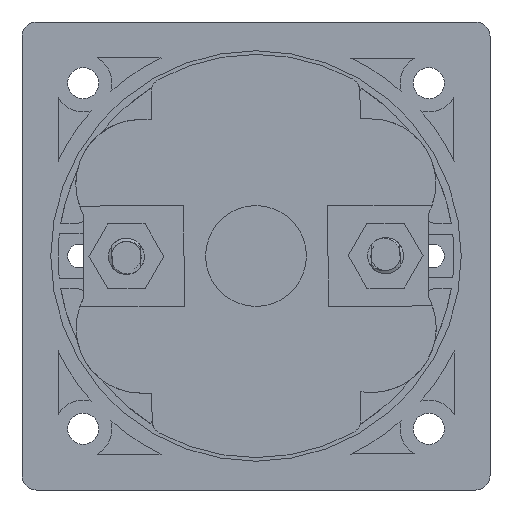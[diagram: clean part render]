
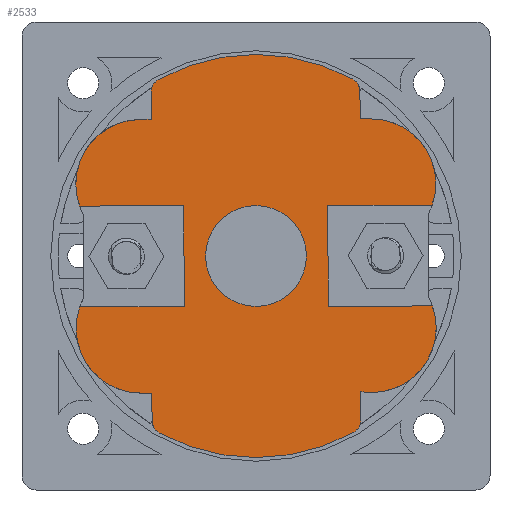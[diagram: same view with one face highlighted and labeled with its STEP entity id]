
A CAD part, front view. The second image highlights one B-rep face of the part: STEP entity #2533.
In plain terms, the highlighted planar face has unit normal (0, -1, 0).
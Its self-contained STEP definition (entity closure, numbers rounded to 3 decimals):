
#520=LINE('',#45096,#1421);
#525=LINE('',#45107,#1426);
#527=LINE('',#45111,#1428);
#531=LINE('',#45123,#1432);
#536=LINE('',#45134,#1437);
#538=LINE('',#45138,#1439);
#543=LINE('',#45173,#1444);
#555=LINE('',#45201,#1456);
#569=LINE('',#45245,#1470);
#571=LINE('',#45259,#1472);
#577=LINE('',#45278,#1478);
#588=LINE('',#45300,#1489);
#602=LINE('',#45344,#1503);
#605=LINE('',#45350,#1506);
#1421=VECTOR('',#13949,1.);
#1426=VECTOR('',#13956,1.);
#1428=VECTOR('',#13960,1.);
#1432=VECTOR('',#13972,1.);
#1437=VECTOR('',#13979,1.);
#1439=VECTOR('',#13983,1.);
#1444=VECTOR('',#13996,1.);
#1456=VECTOR('',#14016,1.);
#1470=VECTOR('',#14054,1.);
#1472=VECTOR('',#14058,1.);
#1478=VECTOR('',#14078,1.);
#1489=VECTOR('',#14091,1.);
#1503=VECTOR('',#14129,1.);
#1506=VECTOR('',#14134,1.);
#2202=FACE_BOUND('',#4202,.T.);
#2203=FACE_BOUND('',#4203,.T.);
#2533=ADVANCED_FACE('',(#2202,#2203),#3113,.F.);
#3113=PLANE('',#12703);
#4202=EDGE_LOOP('',(#6161,#6162,#6163,#6164,#6165,#6166,#6167,#6168,#6169,
#6170,#6171,#6172,#6173,#6174,#6175,#6176,#6177,#6178,#6179,#6180,#6181,
#6182,#6183,#6184,#6185));
#4203=EDGE_LOOP('',(#6186));
#4870=CIRCLE('',#12644,7.);
#4876=CIRCLE('',#12660,8.96);
#4879=CIRCLE('',#12665,2.);
#4881=CIRCLE('',#12668,28.);
#4884=CIRCLE('',#12672,2.);
#4885=CIRCLE('',#12676,9.);
#4887=CIRCLE('',#12679,9.);
#4891=CIRCLE('',#12686,2.);
#4893=CIRCLE('',#12689,28.);
#4896=CIRCLE('',#12693,2.);
#4897=CIRCLE('',#12697,9.);
#4899=CIRCLE('',#12700,9.);
#6161=ORIENTED_EDGE('',*,*,#10685,.F.);
#6162=ORIENTED_EDGE('',*,*,#10750,.T.);
#6163=ORIENTED_EDGE('',*,*,#10749,.T.);
#6164=ORIENTED_EDGE('',*,*,#10745,.T.);
#6165=ORIENTED_EDGE('',*,*,#10734,.T.);
#6166=ORIENTED_EDGE('',*,*,#10730,.T.);
#6167=ORIENTED_EDGE('',*,*,#10727,.T.);
#6168=ORIENTED_EDGE('',*,*,#10723,.T.);
#6169=ORIENTED_EDGE('',*,*,#10712,.T.);
#6170=ORIENTED_EDGE('',*,*,#10709,.T.);
#6171=ORIENTED_EDGE('',*,*,#10799,.T.);
#6172=ORIENTED_EDGE('',*,*,#10696,.F.);
#6173=ORIENTED_EDGE('',*,*,#10691,.F.);
#6174=ORIENTED_EDGE('',*,*,#10698,.F.);
#6175=ORIENTED_EDGE('',*,*,#10796,.T.);
#6176=ORIENTED_EDGE('',*,*,#10795,.T.);
#6177=ORIENTED_EDGE('',*,*,#10792,.T.);
#6178=ORIENTED_EDGE('',*,*,#10781,.T.);
#6179=ORIENTED_EDGE('',*,*,#10777,.T.);
#6180=ORIENTED_EDGE('',*,*,#10774,.T.);
#6181=ORIENTED_EDGE('',*,*,#10770,.T.);
#6182=ORIENTED_EDGE('',*,*,#10759,.T.);
#6183=ORIENTED_EDGE('',*,*,#10753,.T.);
#6184=ORIENTED_EDGE('',*,*,#10683,.F.);
#6185=ORIENTED_EDGE('',*,*,#10678,.F.);
#6186=ORIENTED_EDGE('',*,*,#10677,.F.);
#9308=VERTEX_POINT('',#45094);
#9309=VERTEX_POINT('',#45097);
#9310=VERTEX_POINT('',#45098);
#9314=VERTEX_POINT('',#45108);
#9315=VERTEX_POINT('',#45112);
#9319=VERTEX_POINT('',#45124);
#9320=VERTEX_POINT('',#45125);
#9324=VERTEX_POINT('',#45135);
#9325=VERTEX_POINT('',#45139);
#9329=VERTEX_POINT('',#45154);
#9334=VERTEX_POINT('',#45172);
#9335=VERTEX_POINT('',#45176);
#9337=VERTEX_POINT('',#45182);
#9347=VERTEX_POINT('',#45204);
#9350=VERTEX_POINT('',#45212);
#9352=VERTEX_POINT('',#45218);
#9355=VERTEX_POINT('',#45226);
#9365=VERTEX_POINT('',#45251);
#9369=VERTEX_POINT('',#45267);
#9372=VERTEX_POINT('',#45275);
#9374=VERTEX_POINT('',#45281);
#9384=VERTEX_POINT('',#45303);
#9387=VERTEX_POINT('',#45311);
#9389=VERTEX_POINT('',#45317);
#9392=VERTEX_POINT('',#45325);
#9402=VERTEX_POINT('',#45347);
#10677=EDGE_CURVE('',#9308,#9308,#4870,.T.);
#10678=EDGE_CURVE('',#9309,#9310,#520,.T.);
#10683=EDGE_CURVE('',#9310,#9314,#525,.T.);
#10685=EDGE_CURVE('',#9315,#9309,#527,.T.);
#10691=EDGE_CURVE('',#9319,#9320,#531,.T.);
#10696=EDGE_CURVE('',#9320,#9324,#536,.T.);
#10698=EDGE_CURVE('',#9325,#9319,#538,.T.);
#10709=EDGE_CURVE('',#9329,#9334,#543,.T.);
#10712=EDGE_CURVE('',#9335,#9329,#4876,.T.);
#10723=EDGE_CURVE('',#9337,#9335,#555,.T.);
#10727=EDGE_CURVE('',#9347,#9337,#4879,.T.);
#10730=EDGE_CURVE('',#9350,#9347,#4881,.T.);
#10734=EDGE_CURVE('',#9352,#9350,#4884,.T.);
#10745=EDGE_CURVE('',#9355,#9352,#569,.T.);
#10749=EDGE_CURVE('',#9365,#9355,#571,.T.);
#10750=EDGE_CURVE('',#9315,#9365,#4885,.T.);
#10753=EDGE_CURVE('',#9369,#9314,#4887,.T.);
#10759=EDGE_CURVE('',#9372,#9369,#577,.T.);
#10770=EDGE_CURVE('',#9374,#9372,#588,.T.);
#10774=EDGE_CURVE('',#9384,#9374,#4891,.T.);
#10777=EDGE_CURVE('',#9387,#9384,#4893,.T.);
#10781=EDGE_CURVE('',#9389,#9387,#4896,.T.);
#10792=EDGE_CURVE('',#9392,#9389,#602,.T.);
#10795=EDGE_CURVE('',#9402,#9392,#605,.T.);
#10796=EDGE_CURVE('',#9325,#9402,#4897,.T.);
#10799=EDGE_CURVE('',#9334,#9324,#4899,.T.);
#12644=AXIS2_PLACEMENT_3D('',#45093,#13945,#13946);
#12660=AXIS2_PLACEMENT_3D('',#45179,#14002,#14003);
#12665=AXIS2_PLACEMENT_3D('',#45209,#14024,#14025);
#12668=AXIS2_PLACEMENT_3D('',#45215,#14031,#14032);
#12672=AXIS2_PLACEMENT_3D('',#45223,#14040,#14041);
#12676=AXIS2_PLACEMENT_3D('',#45261,#14061,#14062);
#12679=AXIS2_PLACEMENT_3D('',#45266,#14068,#14069);
#12686=AXIS2_PLACEMENT_3D('',#45308,#14099,#14100);
#12689=AXIS2_PLACEMENT_3D('',#45314,#14106,#14107);
#12693=AXIS2_PLACEMENT_3D('',#45322,#14115,#14116);
#12697=AXIS2_PLACEMENT_3D('',#45352,#14137,#14138);
#12700=AXIS2_PLACEMENT_3D('',#45357,#14144,#14145);
#12703=AXIS2_PLACEMENT_3D('',#45362,#14151,#14152);
#13945=DIRECTION('',(0.,-1.,0.));
#13946=DIRECTION('',(-1.,0.,-0.003));
#13949=DIRECTION('',(-0.003,0.,1.));
#13956=DIRECTION('',(-1.,0.,-0.003));
#13960=DIRECTION('',(1.,0.,0.003));
#13972=DIRECTION('',(0.003,0.,-1.));
#13979=DIRECTION('',(1.,0.,0.003));
#13983=DIRECTION('',(-1.,0.,-0.003));
#13996=DIRECTION('',(1.,0.,0.003));
#14002=DIRECTION('',(0.,-1.,0.));
#14003=DIRECTION('',(0.,0.,-1.));
#14016=DIRECTION('',(-0.003,0.,1.));
#14024=DIRECTION('',(0.,-1.,0.));
#14025=DIRECTION('',(1.,0.,0.003));
#14031=DIRECTION('',(0.,-1.,0.));
#14032=DIRECTION('',(1.,0.,0.003));
#14040=DIRECTION('',(0.,-1.,0.));
#14041=DIRECTION('',(1.,0.,0.003));
#14054=DIRECTION('',(0.003,0.,-1.));
#14058=DIRECTION('',(1.,0.,0.003));
#14061=DIRECTION('',(0.,-1.,0.));
#14062=DIRECTION('',(-0.89,0.,0.456));
#14068=DIRECTION('',(0.,-1.,0.));
#14069=DIRECTION('',(-1.,0.,-0.003));
#14078=DIRECTION('',(-1.,0.,-0.003));
#14091=DIRECTION('',(0.003,0.,-1.));
#14099=DIRECTION('',(0.,-1.,0.));
#14100=DIRECTION('',(1.,0.,0.003));
#14106=DIRECTION('',(0.,-1.,0.));
#14107=DIRECTION('',(1.,0.,0.003));
#14115=DIRECTION('',(0.,-1.,0.));
#14116=DIRECTION('',(1.,0.,0.003));
#14129=DIRECTION('',(-0.003,0.,1.));
#14134=DIRECTION('',(-1.,0.,-0.003));
#14137=DIRECTION('',(0.,-1.,0.));
#14138=DIRECTION('',(1.,0.,0.003));
#14144=DIRECTION('',(0.,-1.,0.));
#14145=DIRECTION('',(0.,0.,-1.));
#14151=DIRECTION('',(0.,1.,0.));
#14152=DIRECTION('',(0.,0.,1.));
#45093=CARTESIAN_POINT('',(0.,-54.1,0.));
#45094=CARTESIAN_POINT('',(-7.,-54.1,-0.018));
#45096=CARTESIAN_POINT('',(-9.982,-54.1,-7.026));
#45097=CARTESIAN_POINT('',(-9.982,-54.1,-7.026));
#45098=CARTESIAN_POINT('',(-10.018,-54.1,6.974));
#45107=CARTESIAN_POINT('',(-10.018,-54.1,6.974));
#45108=CARTESIAN_POINT('',(-24.503,-54.1,6.937));
#45111=CARTESIAN_POINT('',(-34.164,-54.1,-7.088));
#45112=CARTESIAN_POINT('',(-24.468,-54.1,-7.063));
#45123=CARTESIAN_POINT('',(9.982,-54.1,7.026));
#45124=CARTESIAN_POINT('',(9.982,-54.1,7.026));
#45125=CARTESIAN_POINT('',(10.018,-54.1,-6.974));
#45134=CARTESIAN_POINT('',(10.018,-54.1,-6.974));
#45135=CARTESIAN_POINT('',(24.503,-54.1,-6.937));
#45138=CARTESIAN_POINT('',(34.164,-54.1,7.088));
#45139=CARTESIAN_POINT('',(24.467,-54.1,7.063));
#45154=CARTESIAN_POINT('',(15.978,-54.1,-18.959));
#45172=CARTESIAN_POINT('',(16.119,-54.1,-18.958));
#45173=CARTESIAN_POINT('',(23.752,-54.1,-18.938));
#45176=CARTESIAN_POINT('',(14.548,-54.1,-18.837));
#45179=CARTESIAN_POINT('',(16.02,-54.1,-9.999));
#45182=CARTESIAN_POINT('',(14.558,-54.1,-22.761));
#45201=CARTESIAN_POINT('',(14.558,-54.1,-22.761));
#45204=CARTESIAN_POINT('',(13.525,-54.1,-24.517));
#45209=CARTESIAN_POINT('',(12.558,-54.1,-22.766));
#45212=CARTESIAN_POINT('',(-13.398,-54.1,-24.586));
#45215=CARTESIAN_POINT('',(0.,-54.1,0.));
#45218=CARTESIAN_POINT('',(-14.441,-54.1,-22.835));
#45223=CARTESIAN_POINT('',(-12.441,-54.1,-22.83));
#45226=CARTESIAN_POINT('',(-14.451,-54.1,-19.037));
#45245=CARTESIAN_POINT('',(-14.451,-54.1,-19.037));
#45251=CARTESIAN_POINT('',(-15.951,-54.1,-19.041));
#45259=CARTESIAN_POINT('',(23.753,-54.1,-18.934));
#45261=CARTESIAN_POINT('',(-15.974,-54.1,-10.041));
#45266=CARTESIAN_POINT('',(-16.026,-54.1,9.959));
#45267=CARTESIAN_POINT('',(-16.049,-54.1,18.959));
#45275=CARTESIAN_POINT('',(-14.549,-54.1,18.963));
#45278=CARTESIAN_POINT('',(-14.549,-54.1,18.963));
#45281=CARTESIAN_POINT('',(-14.558,-54.1,22.761));
#45300=CARTESIAN_POINT('',(-14.558,-54.1,22.761));
#45303=CARTESIAN_POINT('',(-13.525,-54.1,24.517));
#45308=CARTESIAN_POINT('',(-12.558,-54.1,22.766));
#45311=CARTESIAN_POINT('',(13.398,-54.1,24.586));
#45314=CARTESIAN_POINT('',(0.,-54.1,0.));
#45317=CARTESIAN_POINT('',(14.441,-54.1,22.835));
#45322=CARTESIAN_POINT('',(12.441,-54.1,22.83));
#45325=CARTESIAN_POINT('',(14.451,-54.1,19.037));
#45344=CARTESIAN_POINT('',(14.451,-54.1,19.037));
#45347=CARTESIAN_POINT('',(15.951,-54.1,19.041));
#45350=CARTESIAN_POINT('',(15.951,-54.1,19.041));
#45352=CARTESIAN_POINT('',(15.974,-54.1,10.041));
#45357=CARTESIAN_POINT('',(16.026,-54.1,-9.959));
#45362=CARTESIAN_POINT('',(23.741,-54.1,-14.593));
